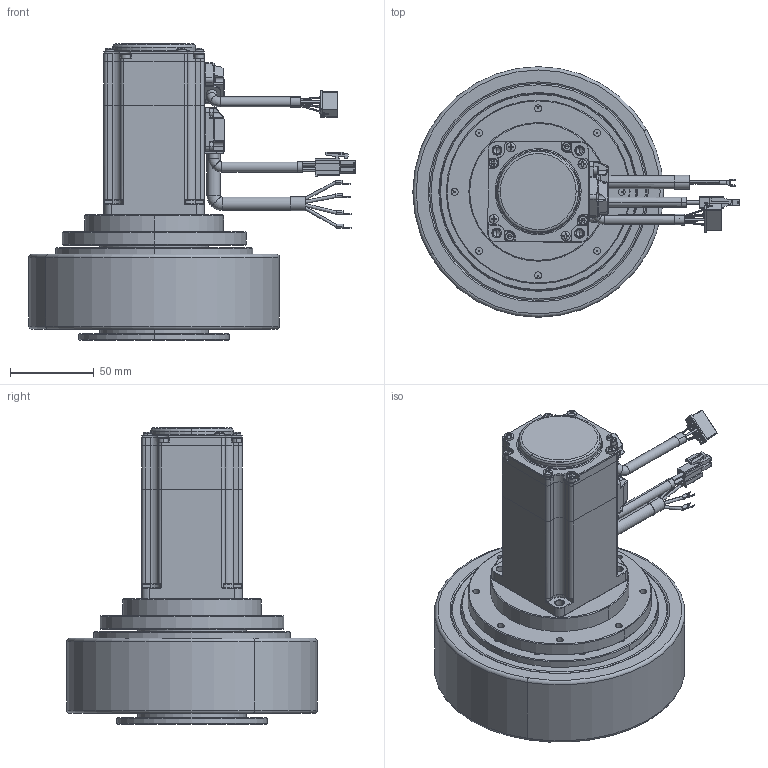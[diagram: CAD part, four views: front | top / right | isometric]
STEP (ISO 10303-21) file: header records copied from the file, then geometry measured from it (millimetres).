
FILE_DESCRIPTION((''),'2;1');
FILE_NAME('MSD150--040-30GSL-B_ASM','2026-05-29T13:28:24',('MS28159'),(''),'CREO PARAMETRIC BY PTC INC, 2018100','CREO PARAMETRIC BY PTC INC, 2018100','');
FILE_SCHEMA(('CONFIG_CONTROL_DESIGN'));
Length unit declared in the file: millimetre
Products named in the file (51): HEXAGON_SOCKET_HEAD_CAP_SCREWS_; SINGLE_COIL_LOCK_WASHERS_LIGH_1; AEQ-95-H45-W150_1; AEQ-095C-L2-14-1_X2_6A21578BFF0; AEQ-095C-L2-14-1-H45-W150_ASM_1_ASM; AEQ-095C-032-05-14-1-H45-W150-__ASM; _25_2_25_ASM_1_ASM; _1_C-172165-1-H-3D0001_1; HEXAGONSOCKETHEADC0009_1; HEXAGONSOCKETHEADC0010_1; HEXAGONSOCKETHEADC0011_1; HEXAGONSOCKETHEADC0012_1; _1-SOLID10001_1; _1_-1-SOLID10001_1; CROSSRECESSEDSMALL0009_1; 001-1-SOLID10001_1; _1_5016461600-1-SO0001_1; CROSSRECESSEDSMALL0010_1; HEXAGONSOCKETHEADC0013_1; _-1-SOLID10001_1; _1_429443800025-1-0001_1; _-1-SOLID10002_1; _1_AGV-2-SOLID10001_1; CROSSRECESSEDCOUNT0004_1; CROSSRECESSEDCOUNT0005_1; CROSSRECESSEDCOUNT0006_1; _1_--1-SOLID10001_1; 3698154002195-1-SOLID1_1; HEXAGONSOCKETHEADC0014_1; _1_-1-SOLID10002_1; HEXAGONSOCKETHEADC0015_1; CROSSRECESSEDSMALL0011_1; CROSSRECESSEDSMALL0012_1; _1_AGV-1-SOLID10001_1; _1_AGV-3-SOLID10001_1; HEXAGONSOCKETHEADC0016_1; CROSSRECESSEDSMALL0013_1; _1_AGV-4-SOLID10001_1; _1_--1-SOLID10002_1; CROSSRECESSEDSMALL0014_1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
Assembly tree (72 placements, depth 5):
  MSD150--040-30GSL-B_ASM
    _25_2_25_ASM_1_ASM
      AEQ-095C-032-05-14-1-H45-W150-__ASM
        AEQ-095C-L2-14-1-H45-W150_ASM_1_ASM
          HEXAGON_SOCKET_HEAD_CAP_SCREWS_  x12
          SINGLE_COIL_LOCK_WASHERS_LIGH_1  x12
          AEQ-95-H45-W150_1
          AEQ-095C-L2-14-1_X2_6A21578BFF0
    SM0602GSL-KCY-BNN-10_ASM
      4611170005890_ASM_1_ASM
        _1_C-172165-1-H-3D0001_1
        HEXAGONSOCKETHEADC0009_1
        HEXAGONSOCKETHEADC0010_1
        HEXAGONSOCKETHEADC0011_1
        HEXAGONSOCKETHEADC0012_1
        _1-SOLID10001_1
        _1_-1-SOLID10001_1
        CROSSRECESSEDSMALL0009_1
        001-1-SOLID10001_1
        _1_5016461600-1-SO0001_1
        CROSSRECESSEDSMALL0010_1
        HEXAGONSOCKETHEADC0013_1
        _-1-SOLID10001_1
        _1_429443800025-1-0001_1
        _-1-SOLID10002_1
        _1_AGV-2-SOLID10001_1
        CROSSRECESSEDCOUNT0004_1
        CROSSRECESSEDCOUNT0005_1
        CROSSRECESSEDCOUNT0006_1
        _1_--1-SOLID10001_1
        3698154002195-1-SOLID1_1
        HEXAGONSOCKETHEADC0014_1
        _1_-1-SOLID10002_1
        HEXAGONSOCKETHEADC0015_1
        CROSSRECESSEDSMALL0011_1
        CROSSRECESSEDSMALL0012_1
        _1_AGV-1-SOLID10001_1
        _1_AGV-3-SOLID10001_1
        HEXAGONSOCKETHEADC0016_1
        CROSSRECESSEDSMALL0013_1
        _1_AGV-4-SOLID10001_1
        _1_--1-SOLID10002_1
        CROSSRECESSEDSMALL0014_1
        CROSSRECESSEDSMALL0015_1
        CROSSRECESSEDSMALL0016_1
        _110001_1
        _140001_1
        _120001_1
        _220001_1
        _150001_1
        _210001_1
Bounding box: 195.28 x 150 x 177.5 mm (x, y, z)
Volume: 1085117.5 mm3; surface area: 225037.7 mm2
Topology: 67 solids, 67 shells, 3123 faces, 8133 edges, 5117 vertices
Faces by surface type: plane 1470, cylinder 945, cone 308, torus 266, sphere 78, bspline 38, extrusion 18
Entity records: 90812 total; most frequent: CARTESIAN_POINT 20478, DIRECTION 15149, ORIENTED_EDGE 14262, EDGE_CURVE 7131, AXIS2_PLACEMENT_3D 5636, VERTEX_POINT 4578, VECTOR 3877, LINE 3859
